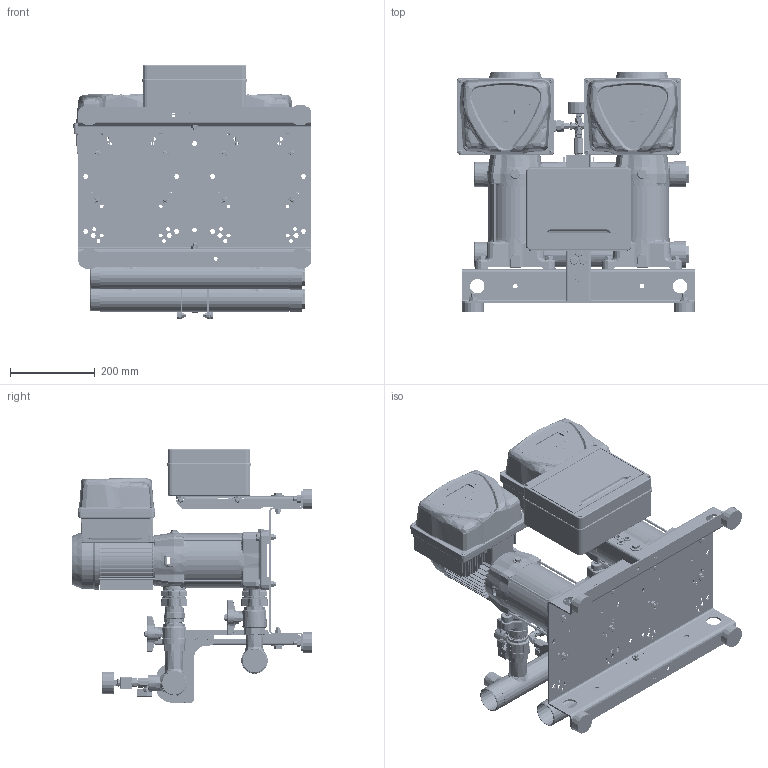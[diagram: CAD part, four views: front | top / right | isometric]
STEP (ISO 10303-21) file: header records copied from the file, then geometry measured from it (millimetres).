
FILE_DESCRIPTION((''),'2;1');
FILE_NAME('2GPE_CVM_B15_ESPT_REV4_ASM','2024-12-03T13:01:25',('Utente'),('"Ebara Pumps Europe S.p.A"'),'CREO PARAMETRIC BY PTC INC, 2022124','CREO PARAMETRIC BY PTC INC, 2022124','');
FILE_SCHEMA(('AUTOMOTIVE_DESIGN { 1 0 10303 214 1 1 1 1 }'));
Products named in the file (45): 62508_275562936; CALOTTA_F_A304_DN50_369800820; VAL_INT_MF_OTN_CIM301-14_DN32; VAL_INT_M-F_OTN_CIM301_DN32_ASM; EP_CVM_B-15_R; EP_CVM_B-15_R_ASM; ADATTATORE_E-SPD_MEC71; E-SPD_ADATTATORE_MEC71_ASM; BACK_E-SPD_PLUS_2200-4000; COVER_E-SPD_PLUS_2200-4000; COM_E-SPDT_MEC71_VERT_ASM; VAL-NR-MF-OTN-CIM32-DN32; VALV_NR_MF_CIM32_DN32_ASM; RONDEL-P_FE_ZN_UNI6592_M10; DADO_AUTOAGG_M10_ESAG; VITI_TE_ISO4017_M10_L40; 62513_275562944; VAL_INT_MF_OTN_CIM012_DN8; NIPPLO_OTG_8_380000861; CROCE_OTG_DN8_380000881; TRASD_16BAR_460500024; MAN_POS_D50_10BAR_361600003; BASE_2GP_I300-B300_DNRV; MONTANTE_H300_271472898; PIEDINO_CIL_369650010; DADI_NORM_ISO4032_FE_ZN_M10; RONDEL-P_ZN_UNI6593_M10X30X2-5; VITI_TE_ISO4017_M10_L45; TRAVERSO_MONT_L200_271472882; RONDEL-P_FE_ZN_UNI6593_M6X18X2; RONDEL-P_FE_ZN_UNI6592_M6; VITI_TE_ISO4017_M6_L20; DADI_NORM_ISO4032_FE_ZN_M6; DNRV_2P_I300-B300_H300-Q250X198_ASM; QUADRO_PROT_2P_T_ELENTEK; PG_PVC_D10-5_380000891; TAPPO-SALVAFIL_D31; 271473006; 271472998; 72578_271473004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
Assembly tree (134 placements, depth 3):
  2GPE_CVM_B15_ESPT_REV4_ASM
    62508_275562936
    CALOTTA_F_A304_DN50_369800820  x2
    VAL_INT_M-F_OTN_CIM301_DN32_ASM  x4
      VAL_INT_MF_OTN_CIM301-14_DN32
    EP_CVM_B-15_R_ASM  x2
      EP_CVM_B-15_R
    E-SPD_ADATTATORE_MEC71_ASM  x2
      ADATTATORE_E-SPD_MEC71
    COM_E-SPDT_MEC71_VERT_ASM  x2
      BACK_E-SPD_PLUS_2200-4000
      COVER_E-SPD_PLUS_2200-4000
    VALV_NR_MF_CIM32_DN32_ASM  x2
      VAL-NR-MF-OTN-CIM32-DN32
    RONDEL-P_FE_ZN_UNI6592_M10  x8
    DADO_AUTOAGG_M10_ESAG  x9
    VITI_TE_ISO4017_M10_L40  x8
    62513_275562944
    VAL_INT_MF_OTN_CIM012_DN8
    NIPPLO_OTG_8_380000861
    CROCE_OTG_DN8_380000881
    TRASD_16BAR_460500024  x2
    MAN_POS_D50_10BAR_361600003
    DNRV_2P_I300-B300_H300-Q250X198_ASM
      BASE_2GP_I300-B300_DNRV
      MONTANTE_H300_271472898
      PIEDINO_CIL_369650010  x4
      RONDEL-P_FE_ZN_UNI6592_M10  x4
      DADI_NORM_ISO4032_FE_ZN_M10  x4
      RONDEL-P_ZN_UNI6593_M10X30X2-5
      VITI_TE_ISO4017_M10_L45
      TRAVERSO_MONT_L200_271472882  x2
      RONDEL-P_FE_ZN_UNI6593_M6X18X2  x8
      RONDEL-P_FE_ZN_UNI6592_M6  x4
      VITI_TE_ISO4017_M6_L20  x4
      DADI_NORM_ISO4032_FE_ZN_M6  x4
      DADO_AUTOAGG_M10_ESAG
    QUADRO_PROT_2P_T_ELENTEK
    PG_PVC_D10-5_380000891  x3
    TAPPO-SALVAFIL_D31  x2
    271473006
    271472998  x2
    72578_271473004  x2
    RONDEL-P_ZN_UNI6593_M10X30X2-5
    VITI_TE_ISO4017_M10_L45
    RONDEL-P_FE_ZN_UNI6592_M8  x12
    VITI_TE_ISO4017_M8_L18  x8
    DADI_NORM_ISO4032_FE_ZN_M8  x4
    DADO_AUTOAGG_M8_ESAG  x4
Bounding box: 562.5 x 565.6 x 601.25 mm (x, y, z)
Volume: 4263002.3 mm3; surface area: 4635063 mm2
Topology: 296 solids, 1277 shells, 32658 faces, 85173 edges, 52542 vertices
Faces by surface type: plane 15767, cylinder 8005, bspline 2637, sphere 2073, cone 1521, extrusion 1426, torus 1229
Entity records: 735259 total; most frequent: CARTESIAN_POINT 288258, ORIENTED_EDGE 74528, DIRECTION 71820, EDGE_CURVE 38610, VERTEX_POINT 24222, AXIS2_PLACEMENT_3D 23963, VECTOR 23762, LINE 23132
